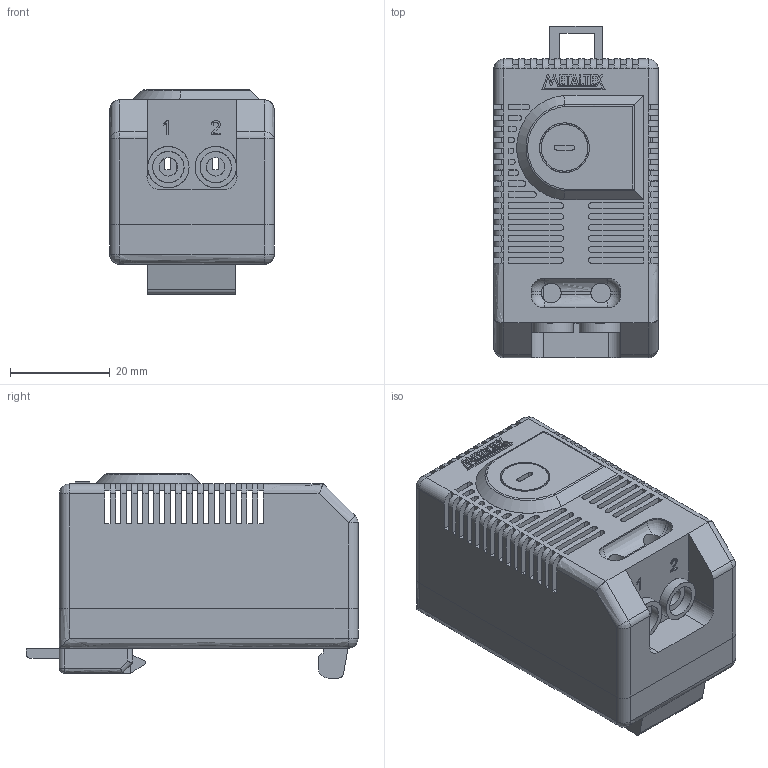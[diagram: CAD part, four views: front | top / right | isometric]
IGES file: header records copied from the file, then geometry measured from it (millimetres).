
Global section: file name: Filename.iges; native system: Open CASCADE 7.5; preprocessor: Open CASCADE IGES processor 7.5; date: 20211112.092518; units: millimetre
Bounding box: 33 x 66.67 x 41 mm (x, y, z)
Surface area: 22321.1 mm2 (no closed solid volume)
Topology: 0 solids, 0 shells, 695 faces, 4224 edges, 4200 vertices
Faces by surface type: plane 414, revolution 163, bspline 96, extrusion 22
